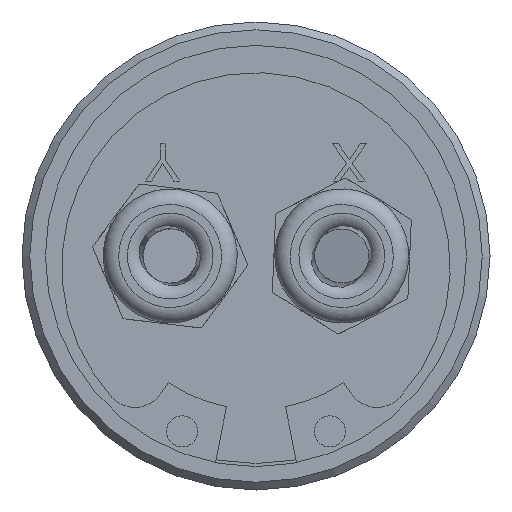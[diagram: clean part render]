
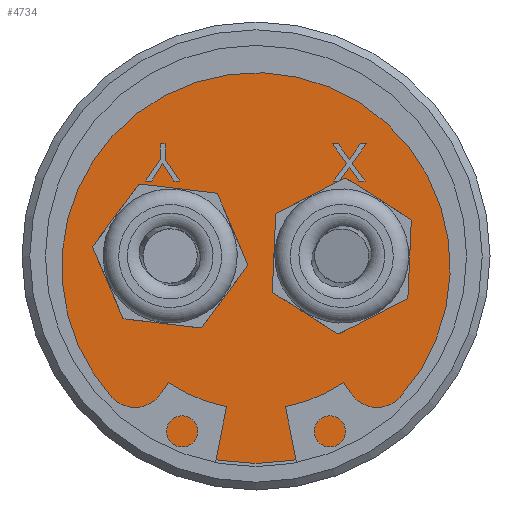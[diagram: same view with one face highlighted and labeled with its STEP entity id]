
A CAD part, left-side view. The second image highlights one B-rep face of the part: STEP entity #4734.
In plain terms, the highlighted planar face has unit normal (-1, 0, 0) as drawn and (0, 0, 1) by its records, which use the part's own axes.
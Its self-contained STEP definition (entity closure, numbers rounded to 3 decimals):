
#1042=CIRCLE('',#5014,2.459);
#1044=CIRCLE('',#5017,2.459);
#1045=CIRCLE('',#5019,13.3);
#1350=VERTEX_POINT('',#7287);
#1351=VERTEX_POINT('',#7289);
#1353=VERTEX_POINT('',#7295);
#1355=VERTEX_POINT('',#7301);
#1357=VERTEX_POINT('',#7307);
#1359=VERTEX_POINT('',#7313);
#1361=VERTEX_POINT('',#7319);
#1363=VERTEX_POINT('',#7325);
#1365=VERTEX_POINT('',#7331);
#1368=VERTEX_POINT('',#7342);
#1369=VERTEX_POINT('',#7344);
#1371=VERTEX_POINT('',#7350);
#1373=VERTEX_POINT('',#7356);
#1375=VERTEX_POINT('',#7362);
#1377=VERTEX_POINT('',#7368);
#1379=VERTEX_POINT('',#7374);
#1381=VERTEX_POINT('',#7380);
#1383=VERTEX_POINT('',#7386);
#1385=VERTEX_POINT('',#7392);
#1387=VERTEX_POINT('',#7398);
#1389=VERTEX_POINT('',#7404);
#1391=VERTEX_POINT('',#7414);
#1393=VERTEX_POINT('',#7419);
#1394=VERTEX_POINT('',#7422);
#1714=VECTOR('',#5649,1.);
#1717=VECTOR('',#5653,1.);
#1720=VECTOR('',#5657,1.);
#1723=VECTOR('',#5661,1.);
#1726=VECTOR('',#5665,1.);
#1729=VECTOR('',#5669,1.);
#1732=VECTOR('',#5673,1.);
#1735=VECTOR('',#5677,1.);
#1738=VECTOR('',#5681,1.);
#1741=VECTOR('',#5686,1.);
#1744=VECTOR('',#5690,1.);
#1747=VECTOR('',#5694,1.);
#1750=VECTOR('',#5698,1.);
#1753=VECTOR('',#5702,1.);
#1756=VECTOR('',#5706,1.);
#1759=VECTOR('',#5710,1.);
#1762=VECTOR('',#5714,1.);
#1765=VECTOR('',#5718,1.);
#1768=VECTOR('',#5722,1.);
#1771=VECTOR('',#5726,1.);
#1774=VECTOR('',#5730,1.);
#2063=LINE('',#7288,#1714);
#2066=LINE('',#7294,#1717);
#2069=LINE('',#7300,#1720);
#2072=LINE('',#7306,#1723);
#2075=LINE('',#7312,#1726);
#2078=LINE('',#7318,#1729);
#2081=LINE('',#7324,#1732);
#2084=LINE('',#7330,#1735);
#2087=LINE('',#7335,#1738);
#2090=LINE('',#7343,#1741);
#2093=LINE('',#7349,#1744);
#2096=LINE('',#7355,#1747);
#2099=LINE('',#7361,#1750);
#2102=LINE('',#7367,#1753);
#2105=LINE('',#7373,#1756);
#2108=LINE('',#7379,#1759);
#2111=LINE('',#7385,#1762);
#2114=LINE('',#7391,#1765);
#2117=LINE('',#7397,#1768);
#2120=LINE('',#7403,#1771);
#2123=LINE('',#7408,#1774);
#2581=EDGE_CURVE('',#1351,#1350,#2063,.T.);
#2584=EDGE_CURVE('',#1353,#1351,#2066,.T.);
#2587=EDGE_CURVE('',#1355,#1353,#2069,.T.);
#2590=EDGE_CURVE('',#1357,#1355,#2072,.T.);
#2593=EDGE_CURVE('',#1359,#1357,#2075,.T.);
#2596=EDGE_CURVE('',#1361,#1359,#2078,.T.);
#2599=EDGE_CURVE('',#1363,#1361,#2081,.T.);
#2602=EDGE_CURVE('',#1365,#1363,#2084,.T.);
#2605=EDGE_CURVE('',#1350,#1365,#2087,.T.);
#2608=EDGE_CURVE('',#1369,#1368,#2090,.T.);
#2611=EDGE_CURVE('',#1371,#1369,#2093,.T.);
#2614=EDGE_CURVE('',#1373,#1371,#2096,.T.);
#2617=EDGE_CURVE('',#1375,#1373,#2099,.T.);
#2620=EDGE_CURVE('',#1377,#1375,#2102,.T.);
#2623=EDGE_CURVE('',#1379,#1377,#2105,.T.);
#2626=EDGE_CURVE('',#1381,#1379,#2108,.T.);
#2629=EDGE_CURVE('',#1383,#1381,#2111,.T.);
#2632=EDGE_CURVE('',#1385,#1383,#2114,.T.);
#2635=EDGE_CURVE('',#1387,#1385,#2117,.T.);
#2638=EDGE_CURVE('',#1389,#1387,#2120,.T.);
#2641=EDGE_CURVE('',#1368,#1389,#2123,.T.);
#2643=EDGE_CURVE('',#1391,#1391,#1042,.T.);
#2645=EDGE_CURVE('',#1393,#1393,#1044,.T.);
#2646=EDGE_CURVE('',#1394,#1394,#1045,.T.);
#3673=ORIENTED_EDGE('',*,*,#2581,.T.);
#3674=ORIENTED_EDGE('',*,*,#2605,.T.);
#3675=ORIENTED_EDGE('',*,*,#2602,.T.);
#3676=ORIENTED_EDGE('',*,*,#2599,.T.);
#3677=ORIENTED_EDGE('',*,*,#2596,.T.);
#3678=ORIENTED_EDGE('',*,*,#2593,.T.);
#3679=ORIENTED_EDGE('',*,*,#2590,.T.);
#3680=ORIENTED_EDGE('',*,*,#2587,.T.);
#3681=ORIENTED_EDGE('',*,*,#2584,.T.);
#3682=ORIENTED_EDGE('',*,*,#2608,.T.);
#3683=ORIENTED_EDGE('',*,*,#2641,.T.);
#3684=ORIENTED_EDGE('',*,*,#2638,.T.);
#3685=ORIENTED_EDGE('',*,*,#2635,.T.);
#3686=ORIENTED_EDGE('',*,*,#2632,.T.);
#3687=ORIENTED_EDGE('',*,*,#2629,.T.);
#3688=ORIENTED_EDGE('',*,*,#2626,.T.);
#3689=ORIENTED_EDGE('',*,*,#2623,.T.);
#3690=ORIENTED_EDGE('',*,*,#2620,.T.);
#3691=ORIENTED_EDGE('',*,*,#2617,.T.);
#3692=ORIENTED_EDGE('',*,*,#2614,.T.);
#3693=ORIENTED_EDGE('',*,*,#2611,.T.);
#3694=ORIENTED_EDGE('',*,*,#2643,.T.);
#3695=ORIENTED_EDGE('',*,*,#2645,.T.);
#3696=ORIENTED_EDGE('',*,*,#2646,.F.);
#4175=EDGE_LOOP('',(#3673,#3674,#3675,#3676,#3677,#3678,#3679,#3680,#3681));
#4176=EDGE_LOOP('',(#3682,#3683,#3684,#3685,#3686,#3687,#3688,#3689,#3690,
#3691,#3692,#3693));
#4177=EDGE_LOOP('',(#3694));
#4178=EDGE_LOOP('',(#3695));
#4179=EDGE_LOOP('',(#3696));
#4465=FACE_BOUND('',#4175,.T.);
#4466=FACE_BOUND('',#4176,.T.);
#4467=FACE_BOUND('',#4177,.T.);
#4468=FACE_BOUND('',#4178,.T.);
#4469=FACE_BOUND('',#4179,.T.);
#4734=ADVANCED_FACE('',(#4465,#4466,#4467,#4468,#4469),#8005,.T.);
#5014=AXIS2_PLACEMENT_3D('',#7413,#5736,#5737);
#5017=AXIS2_PLACEMENT_3D('',#7418,#5742,#5743);
#5019=AXIS2_PLACEMENT_3D('',#7421,#5746,#5747);
#5021=AXIS2_PLACEMENT_3D('',#7425,#5750,$);
#5649=DIRECTION('',(-0.563,-0.826,0.));
#5653=DIRECTION('',(1.,0.,0.));
#5657=DIRECTION('',(0.542,0.84,0.));
#5661=DIRECTION('',(0.544,-0.839,0.));
#5665=DIRECTION('',(1.,0.,0.));
#5669=DIRECTION('',(-0.563,0.826,0.));
#5673=DIRECTION('',(0.,1.,0.));
#5677=DIRECTION('',(-1.,0.,0.));
#5681=DIRECTION('',(0.,-1.,0.));
#5686=DIRECTION('',(0.591,-0.807,0.));
#5690=DIRECTION('',(-0.591,-0.806,0.));
#5694=DIRECTION('',(1.,0.,0.));
#5698=DIRECTION('',(0.575,0.818,0.));
#5702=DIRECTION('',(0.573,-0.819,0.));
#5706=DIRECTION('',(1.,0.,0.));
#5710=DIRECTION('',(-0.59,0.807,0.));
#5714=DIRECTION('',(0.589,0.808,0.));
#5718=DIRECTION('',(-1.,0.,0.));
#5722=DIRECTION('',(-0.575,-0.818,0.));
#5726=DIRECTION('',(-0.573,0.82,0.));
#5730=DIRECTION('',(-1.,0.,0.));
#5736=DIRECTION('',(0.,0.,-1.));
#5737=DIRECTION('',(0.,2.459,0.));
#5742=DIRECTION('',(0.,0.,-1.));
#5743=DIRECTION('',(0.,2.459,0.));
#5746=DIRECTION('',(0.,0.,-1.));
#5747=DIRECTION('',(13.3,0.,0.));
#5750=DIRECTION('',(0.,0.,1.));
#7287=CARTESIAN_POINT('',(6.141,-6.182,3.));
#7288=CARTESIAN_POINT('',(6.839,-5.157,3.));
#7289=CARTESIAN_POINT('',(7.078,-4.807,3.));
#7294=CARTESIAN_POINT('',(3.443,-4.807,3.));
#7295=CARTESIAN_POINT('',(6.693,-4.807,3.));
#7300=CARTESIAN_POINT('',(6.627,-4.91,3.));
#7301=CARTESIAN_POINT('',(5.984,-5.906,3.));
#7306=CARTESIAN_POINT('',(3.571,-2.187,3.));
#7307=CARTESIAN_POINT('',(5.271,-4.807,3.));
#7312=CARTESIAN_POINT('',(2.54,-4.807,3.));
#7313=CARTESIAN_POINT('',(4.888,-4.807,3.));
#7318=CARTESIAN_POINT('',(3.228,-2.373,3.));
#7319=CARTESIAN_POINT('',(5.825,-6.182,3.));
#7324=CARTESIAN_POINT('',(5.825,-3.344,3.));
#7325=CARTESIAN_POINT('',(5.825,-7.193,3.));
#7330=CARTESIAN_POINT('',(2.991,-7.193,3.));
#7331=CARTESIAN_POINT('',(6.141,-7.193,3.));
#7335=CARTESIAN_POINT('',(6.141,-3.344,3.));
#7342=CARTESIAN_POINT('',(-4.888,-7.193,3.));
#7343=CARTESIAN_POINT('',(-5.979,-5.702,3.));
#7344=CARTESIAN_POINT('',(-5.808,-5.936,3.));
#7349=CARTESIAN_POINT('',(-3.169,-2.339,3.));
#7350=CARTESIAN_POINT('',(-4.979,-4.807,3.));
#7355=CARTESIAN_POINT('',(-2.586,-4.807,3.));
#7356=CARTESIAN_POINT('',(-5.364,-4.807,3.));
#7361=CARTESIAN_POINT('',(-3.501,-2.157,3.));
#7362=CARTESIAN_POINT('',(-5.984,-5.689,3.));
#7367=CARTESIAN_POINT('',(-6.491,-4.965,3.));
#7368=CARTESIAN_POINT('',(-6.602,-4.807,3.));
#7373=CARTESIAN_POINT('',(-3.397,-4.807,3.));
#7374=CARTESIAN_POINT('',(-6.987,-4.807,3.));
#7379=CARTESIAN_POINT('',(-6.709,-5.187,3.));
#7380=CARTESIAN_POINT('',(-6.162,-5.936,3.));
#7385=CARTESIAN_POINT('',(-3.91,-2.845,3.));
#7386=CARTESIAN_POINT('',(-7.078,-7.193,3.));
#7391=CARTESIAN_POINT('',(-3.442,-7.193,3.));
#7392=CARTESIAN_POINT('',(-6.691,-7.193,3.));
#7397=CARTESIAN_POINT('',(-3.717,-2.958,3.));
#7398=CARTESIAN_POINT('',(-5.981,-6.182,3.));
#7403=CARTESIAN_POINT('',(-6.275,-5.761,3.));
#7404=CARTESIAN_POINT('',(-5.275,-7.193,3.));
#7408=CARTESIAN_POINT('',(-2.541,-7.193,3.));
#7413=CARTESIAN_POINT('',(5.5,0.,3.));
#7414=CARTESIAN_POINT('',(5.5,2.459,3.));
#7418=CARTESIAN_POINT('',(-5.5,0.,3.));
#7419=CARTESIAN_POINT('',(-5.5,2.459,3.));
#7421=CARTESIAN_POINT('',(0.,0.,3.));
#7422=CARTESIAN_POINT('',(13.3,0.,3.));
#7425=CARTESIAN_POINT('',(0.,0.,3.));
#8005=PLANE('',#5021);
